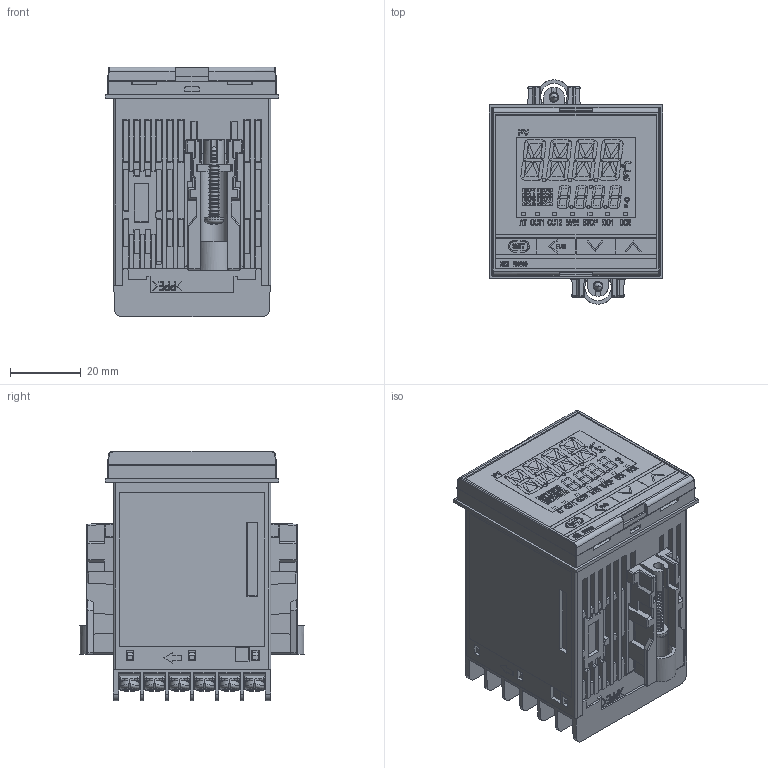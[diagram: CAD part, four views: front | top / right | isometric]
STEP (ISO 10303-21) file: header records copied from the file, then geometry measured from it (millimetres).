
FILE_DESCRIPTION (( 'STEP AP203' ), '1' );
FILE_NAME ('RB100_WEB.STEP', '2019-04-12T05:12:50', ( '' ), ( '' ), 'SwSTEP 2.0', 'SolidWorks 2018', '' );
FILE_SCHEMA (( 'CONFIG_CONTROL_DESIGN' ));
Products named in the file (4): RB100(基本設計)_WEB; KRB100-39_WEB; KRZ400-520_WEB; RB100_WEB
Assembly tree (4 placements, depth 2):
  RB100_WEB
    RB100(基本設計)_WEB
    KRB100-39_WEB
    KRZ400-520_WEB  x2
Bounding box: 49.2 x 63.65 x 70.85 mm (x, y, z)
Volume: 135031.3 mm3; surface area: 40335.8 mm2
Topology: 12 solids, 12 shells, 6138 faces, 16558 edges, 10696 vertices
Faces by surface type: plane 4306, cylinder 753, bspline 741, cone 194, sphere 104, torus 40
Entity records: 192584 total; most frequent: CARTESIAN_POINT 56333, ORIENTED_EDGE 29906, DIRECTION 25045, EDGE_CURVE 14953, LINE 11951, VECTOR 11951, VERTEX_POINT 9747, AXIS2_PLACEMENT_3D 6547
